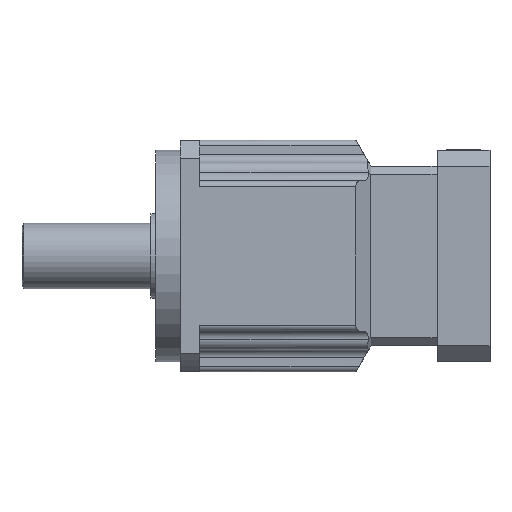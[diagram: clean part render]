
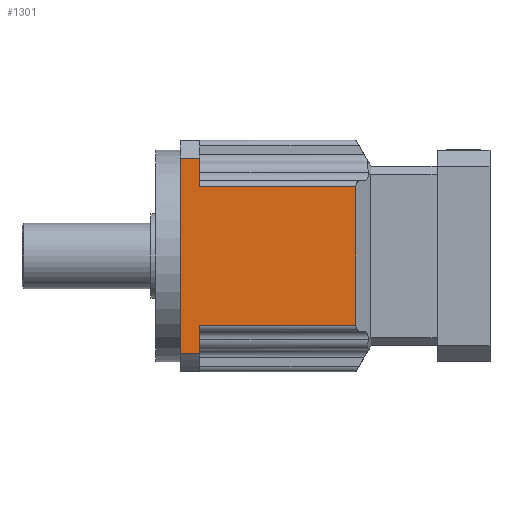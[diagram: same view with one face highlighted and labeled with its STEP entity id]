
A CAD part, left-side view. The second image highlights one B-rep face of the part: STEP entity #1301.
In plain terms, the highlighted planar face has unit normal (-1, 0, 0).
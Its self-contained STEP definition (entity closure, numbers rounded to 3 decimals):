
#236 = LINE ( 'NONE', #6840, #17798 ) ;
#337 = LINE ( 'NONE', #17040, #21178 ) ;
#392 = LINE ( 'NONE', #10846, #15235 ) ;
#708 = LINE ( 'NONE', #18970, #14728 ) ;
#1301 = ADVANCED_FACE ( 'NONE', ( #7253 ), #7607, .T. ) ;
#1383 = LINE ( 'NONE', #19196, #18368 ) ;
#1744 = CARTESIAN_POINT ( 'NONE',  ( -136.73, -42.611, -42.55 ) ) ;
#2069 = CARTESIAN_POINT ( 'NONE',  ( -136.73, 53.151, -42.55 ) ) ;
#2093 = CARTESIAN_POINT ( 'NONE',  ( -136.73, 53.151, 60.017 ) ) ;
#2155 = CARTESIAN_POINT ( 'NONE',  ( -136.73, -42.611, 60.017 ) ) ;
#2553 = VERTEX_POINT ( 'NONE', #1744 ) ;
#2707 = EDGE_CURVE ( 'NONE', #12342, #16835, #18455, .T. ) ;
#2817 = DIRECTION ( 'NONE',  ( 0., -1., 0. ) ) ;
#3078 = ORIENTED_EDGE ( 'NONE', *, *, #21007, .T. ) ;
#3846 = DIRECTION ( 'NONE',  ( 0., 0., 1. ) ) ;
#4651 = ORIENTED_EDGE ( 'NONE', *, *, #21525, .F. ) ;
#4725 = CARTESIAN_POINT ( 'NONE',  ( -136.73, -42.611, -42.55 ) ) ;
#5175 = CARTESIAN_POINT ( 'NONE',  ( -136.73, 65.151, -60.117 ) ) ;
#5340 = DIRECTION ( 'NONE',  ( 0., 0., 1. ) ) ;
#5348 = CARTESIAN_POINT ( 'NONE',  ( -136.73, -42.611, -60.117 ) ) ;
#5649 = DIRECTION ( 'NONE',  ( 0., -1., 0. ) ) ;
#6438 = VERTEX_POINT ( 'NONE', #2069 ) ;
#6840 = CARTESIAN_POINT ( 'NONE',  ( -136.73, -42.611, 60.017 ) ) ;
#7253 = FACE_OUTER_BOUND ( 'NONE', #19974, .T. ) ;
#7587 = CARTESIAN_POINT ( 'NONE',  ( -136.73, 53.151, 42.45 ) ) ;
#7592 = EDGE_CURVE ( 'NONE', #18141, #19954, #337, .T. ) ;
#7607 = PLANE ( 'NONE',  #9348 ) ;
#9348 = AXIS2_PLACEMENT_3D ( 'NONE', #2155, #14517, #14587 ) ;
#10007 = ORIENTED_EDGE ( 'NONE', *, *, #16011, .T. ) ;
#10420 = DIRECTION ( 'NONE',  ( 0., 0., 1. ) ) ;
#10678 = LINE ( 'NONE', #2093, #19666 ) ;
#10846 = CARTESIAN_POINT ( 'NONE',  ( -136.73, 65.151, -0.05 ) ) ;
#11092 = VECTOR ( 'NONE', #2817, 1000. ) ;
#11980 = ORIENTED_EDGE ( 'NONE', *, *, #7592, .T. ) ;
#12342 = VERTEX_POINT ( 'NONE', #5175 ) ;
#12527 = ORIENTED_EDGE ( 'NONE', *, *, #2707, .T. ) ;
#13124 = EDGE_CURVE ( 'NONE', #6438, #2553, #20921, .T. ) ;
#13186 = ORIENTED_EDGE ( 'NONE', *, *, #13124, .T. ) ;
#13575 = VECTOR ( 'NONE', #5649, 1000. ) ;
#13758 = DIRECTION ( 'NONE',  ( 0., 1., 0. ) ) ;
#14055 = CARTESIAN_POINT ( 'NONE',  ( -136.73, -42.611, 42.45 ) ) ;
#14517 = DIRECTION ( 'NONE',  ( -1., 0., 0. ) ) ;
#14587 = DIRECTION ( 'NONE',  ( 0., 0., 1. ) ) ;
#14728 = VECTOR ( 'NONE', #10420, 1000. ) ;
#15043 = EDGE_CURVE ( 'NONE', #16835, #6438, #10678, .T. ) ;
#15235 = VECTOR ( 'NONE', #17784, 1000. ) ;
#16011 = EDGE_CURVE ( 'NONE', #19954, #16539, #1383, .T. ) ;
#16408 = EDGE_CURVE ( 'NONE', #16539, #20041, #236, .T. ) ;
#16539 = VERTEX_POINT ( 'NONE', #21435 ) ;
#16835 = VERTEX_POINT ( 'NONE', #20471 ) ;
#17040 = CARTESIAN_POINT ( 'NONE',  ( -136.73, -42.611, 42.45 ) ) ;
#17784 = DIRECTION ( 'NONE',  ( 0., 0., 1. ) ) ;
#17798 = VECTOR ( 'NONE', #22773, 1000. ) ;
#17880 = ORIENTED_EDGE ( 'NONE', *, *, #16408, .T. ) ;
#18141 = VERTEX_POINT ( 'NONE', #14055 ) ;
#18368 = VECTOR ( 'NONE', #5340, 1000. ) ;
#18455 = LINE ( 'NONE', #5348, #13575 ) ;
#18970 = CARTESIAN_POINT ( 'NONE',  ( -136.73, -42.611, 60.017 ) ) ;
#19196 = CARTESIAN_POINT ( 'NONE',  ( -136.73, 53.151, 60.017 ) ) ;
#19666 = VECTOR ( 'NONE', #3846, 1000. ) ;
#19954 = VERTEX_POINT ( 'NONE', #7587 ) ;
#19974 = EDGE_LOOP ( 'NONE', ( #10007, #17880, #4651, #12527, #22329, #13186, #3078, #11980 ) ) ;
#20041 = VERTEX_POINT ( 'NONE', #20205 ) ;
#20205 = CARTESIAN_POINT ( 'NONE',  ( -136.73, 65.151, 60.017 ) ) ;
#20471 = CARTESIAN_POINT ( 'NONE',  ( -136.73, 53.151, -60.117 ) ) ;
#20921 = LINE ( 'NONE', #4725, #11092 ) ;
#21007 = EDGE_CURVE ( 'NONE', #2553, #18141, #708, .T. ) ;
#21178 = VECTOR ( 'NONE', #13758, 1000. ) ;
#21435 = CARTESIAN_POINT ( 'NONE',  ( -136.73, 53.151, 60.017 ) ) ;
#21525 = EDGE_CURVE ( 'NONE', #12342, #20041, #392, .T. ) ;
#22329 = ORIENTED_EDGE ( 'NONE', *, *, #15043, .T. ) ;
#22773 = DIRECTION ( 'NONE',  ( 0., 1., 0. ) ) ;
